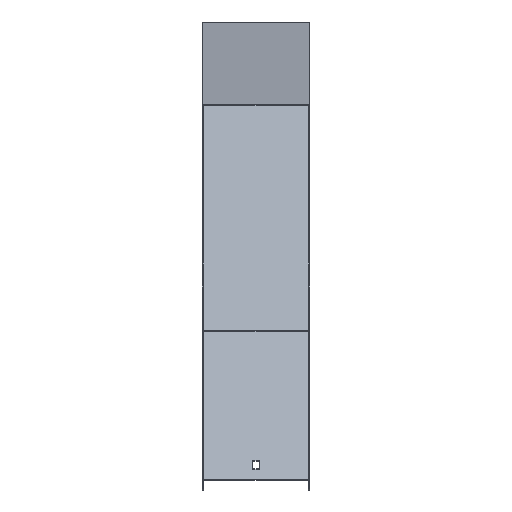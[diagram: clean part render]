
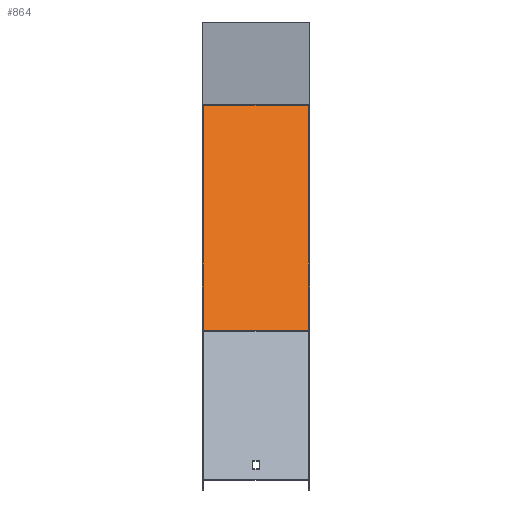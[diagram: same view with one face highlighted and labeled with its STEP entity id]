
A CAD part, top view. The second image highlights one B-rep face of the part: STEP entity #864.
In plain terms, the highlighted planar face has unit normal (0, 0.707, 0.707).
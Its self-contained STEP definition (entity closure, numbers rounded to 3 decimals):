
#9 = VECTOR ( 'NONE', #278, 1000. ) ;
#52 = LINE ( 'NONE', #729, #9 ) ;
#61 = AXIS2_PLACEMENT_3D ( 'NONE', #596, #215, #821 ) ;
#81 = CARTESIAN_POINT ( 'NONE',  ( -51.5, -59.455, 462.165 ) ) ;
#149 = EDGE_CURVE ( 'NONE', #811, #267, #887, .T. ) ;
#152 = EDGE_LOOP ( 'NONE', ( #367, #694, #754, #277 ) ) ;
#215 = DIRECTION ( 'NONE',  ( 0., -0.707, -0.707 ) ) ;
#250 = VECTOR ( 'NONE', #362, 1000. ) ;
#251 = EDGE_CURVE ( 'NONE', #330, #267, #439, .T. ) ;
#267 = VERTEX_POINT ( 'NONE', #888 ) ;
#277 = ORIENTED_EDGE ( 'NONE', *, *, #835, .T. ) ;
#278 = DIRECTION ( 'NONE',  ( -1., 0., 0. ) ) ;
#280 = CARTESIAN_POINT ( 'NONE',  ( 51.5, -63.245, 465.954 ) ) ;
#330 = VERTEX_POINT ( 'NONE', #81 ) ;
#338 = VERTEX_POINT ( 'NONE', #907 ) ;
#362 = DIRECTION ( 'NONE',  ( -1., 0., 0. ) ) ;
#367 = ORIENTED_EDGE ( 'NONE', *, *, #251, .T. ) ;
#439 = LINE ( 'NONE', #795, #530 ) ;
#518 = PLANE ( 'NONE',  #61 ) ;
#530 = VECTOR ( 'NONE', #742, 1000. ) ;
#575 = EDGE_CURVE ( 'NONE', #338, #811, #965, .T. ) ;
#596 = CARTESIAN_POINT ( 'NONE',  ( 51.5, -63.245, 465.954 ) ) ;
#642 = CARTESIAN_POINT ( 'NONE',  ( 51.5, -276.532, 679.241 ) ) ;
#648 = CARTESIAN_POINT ( 'NONE',  ( 51.5, -276.532, 679.241 ) ) ;
#694 = ORIENTED_EDGE ( 'NONE', *, *, #149, .F. ) ;
#722 = VECTOR ( 'NONE', #796, 1000. ) ;
#729 = CARTESIAN_POINT ( 'NONE',  ( 51.5, -59.455, 462.165 ) ) ;
#742 = DIRECTION ( 'NONE',  ( 0., -0.707, 0.707 ) ) ;
#754 = ORIENTED_EDGE ( 'NONE', *, *, #575, .F. ) ;
#795 = CARTESIAN_POINT ( 'NONE',  ( -51.5, -63.245, 465.954 ) ) ;
#796 = DIRECTION ( 'NONE',  ( 0., -0.707, 0.707 ) ) ;
#811 = VERTEX_POINT ( 'NONE', #648 ) ;
#821 = DIRECTION ( 'NONE',  ( 0., 0.707, -0.707 ) ) ;
#835 = EDGE_CURVE ( 'NONE', #338, #330, #52, .T. ) ;
#864 = ADVANCED_FACE ( 'NONE', ( #880 ), #518, .F. ) ;
#880 = FACE_OUTER_BOUND ( 'NONE', #152, .T. ) ;
#887 = LINE ( 'NONE', #642, #250 ) ;
#888 = CARTESIAN_POINT ( 'NONE',  ( -51.5, -276.532, 679.241 ) ) ;
#907 = CARTESIAN_POINT ( 'NONE',  ( 51.5, -59.455, 462.165 ) ) ;
#965 = LINE ( 'NONE', #280, #722 ) ;
